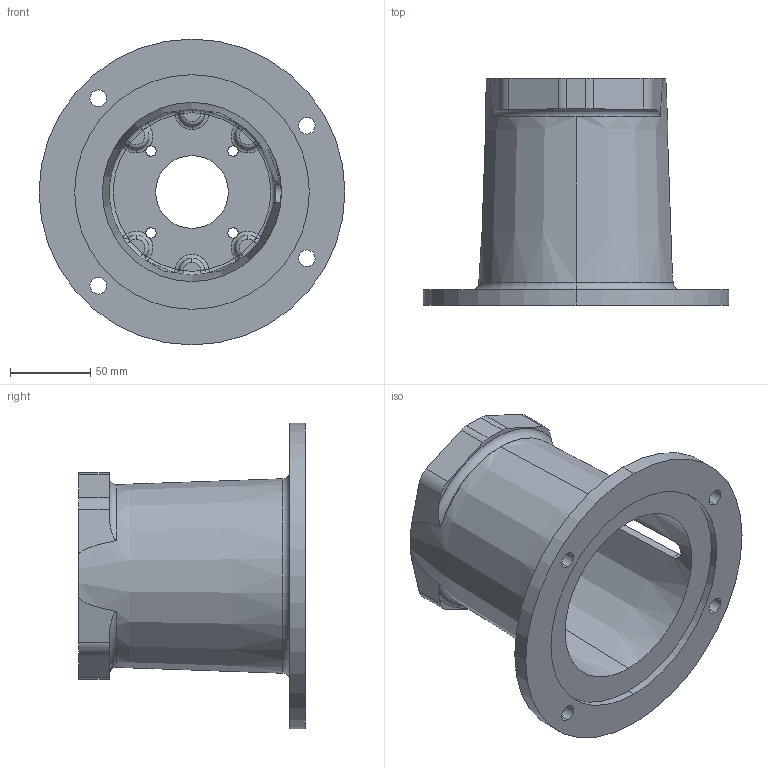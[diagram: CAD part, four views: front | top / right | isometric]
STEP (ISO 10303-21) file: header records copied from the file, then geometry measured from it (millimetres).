
FILE_DESCRIPTION (( 'STEP AP203' ), '1' );
FILE_NAME ('E575524F.STEP', '2014-11-03T15:42:14', ( '' ), ( '' ), 'SwSTEP 2.0', 'SolidWorks 2014', '' );
FILE_SCHEMA (( 'CONFIG_CONTROL_DESIGN' ));
Length unit declared in the file: inch
Products named in the file (1): E575524F
Bounding box: 190.5 x 141.22 x 190.5 mm (x, y, z)
Volume: 496416.6 mm3; surface area: 153013.8 mm2
Topology: 1 solids, 1 shells, 163 faces, 422 edges, 248 vertices
Faces by surface type: torus 48, cylinder 32, plane 25, sphere 24, bspline 24, cone 10
Entity records: 6627 total; most frequent: CARTESIAN_POINT 2622, DIRECTION 890, ORIENTED_EDGE 820, AXIS2_PLACEMENT_3D 412, EDGE_CURVE 410, CIRCLE 272, VERTEX_POINT 248, EDGE_LOOP 182
